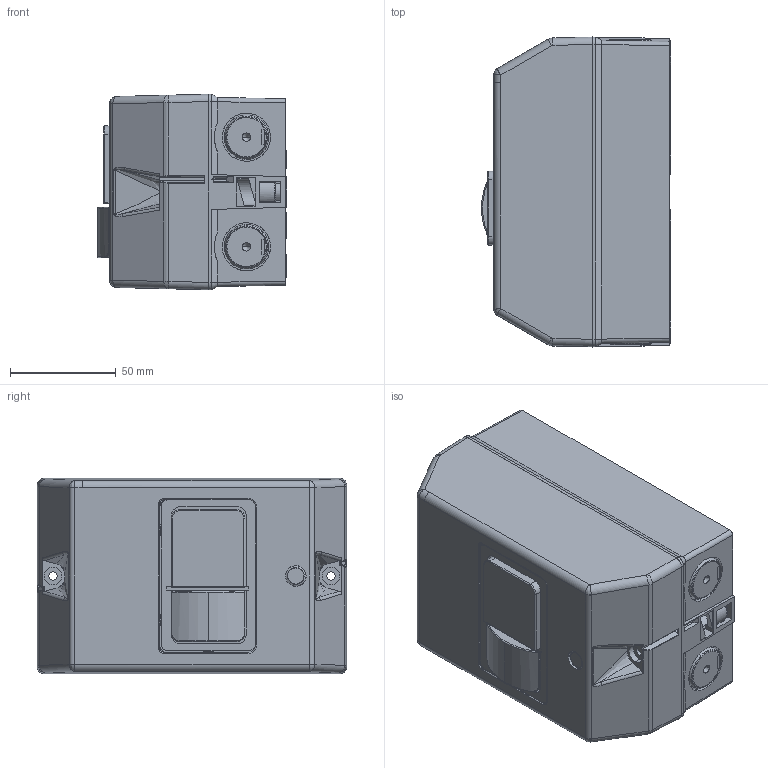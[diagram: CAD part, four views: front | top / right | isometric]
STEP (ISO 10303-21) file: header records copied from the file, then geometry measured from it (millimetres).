
FILE_DESCRIPTION (( 'STEP AP214' ), '1' );
FILE_NAME ('防水盒.STEP', '2024-01-10T00:44:17', ( '微软用户' ), ( '微软中国' ), 'SwSTEP 2.0', 'SolidWorks 2016', '' );
FILE_SCHEMA (( 'AUTOMOTIVE_DESIGN' ));
Length unit declared in the file: millimetre
Products named in the file (5): 蜊綴2014-4-6.滅阨碟裔; 滅阨碟; 蜊綴  2014-4-4.滅阨碟揤啣; 改后2014-4-6.防水盒聚氯乙烯－橡皮盖; 2013-12-16.滅阨碟菁釱
Assembly tree (4 placements, depth 2):
  滅阨碟
    2013-12-16.滅阨碟菁釱
    蜊綴2014-4-6.滅阨碟裔
    改后2014-4-6.防水盒聚氯乙烯－橡皮盖
    蜊綴  2014-4-4.滅阨碟揤啣
Bounding box: 89.5 x 146.6 x 92.6 mm (x, y, z)
Volume: 169841.3 mm3; surface area: 170195.8 mm2
Topology: 4 solids, 4 shells, 1461 faces, 3897 edges, 2493 vertices
Faces by surface type: plane 842, cylinder 394, bspline 132, torus 47, cone 30, sphere 16
Entity records: 56224 total; most frequent: CARTESIAN_POINT 21129, ORIENTED_EDGE 7754, DIRECTION 6640, EDGE_CURVE 3877, LINE 2524, VECTOR 2524, VERTEX_POINT 2493, AXIS2_PLACEMENT_3D 2058
